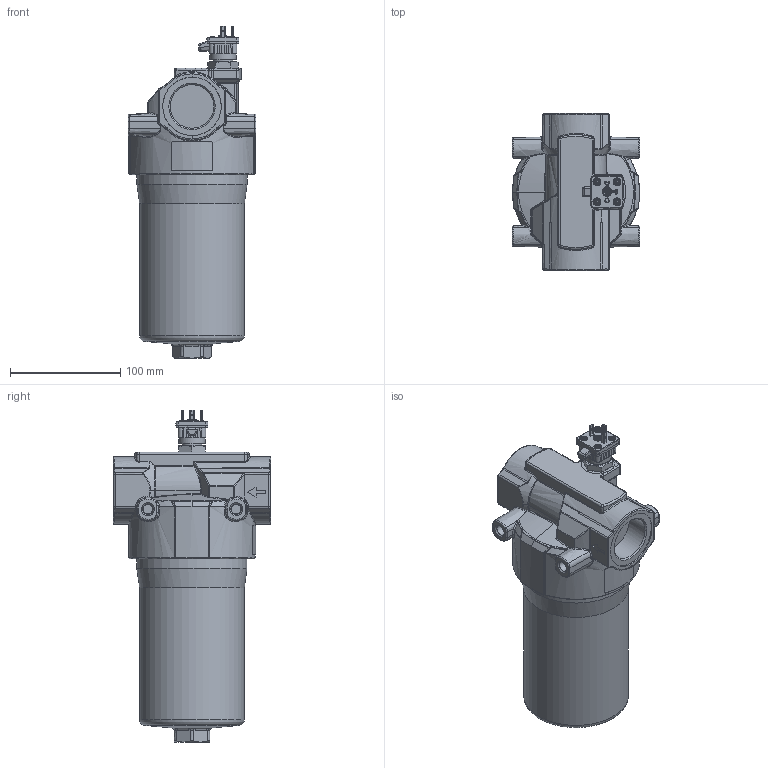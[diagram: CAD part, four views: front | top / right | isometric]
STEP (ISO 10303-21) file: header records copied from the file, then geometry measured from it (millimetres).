
FILE_DESCRIPTION((''),'2;1');
FILE_NAME('U:\Users\i.maeder\34377500_D162-258ED8.stp', '2016-10-25T08:07:55',('User'),('SDRC'),'I-DEAS Master Series 9','UNIX', 'Yes');
FILE_SCHEMA(('AUTOMOTIVE_DESIGN { 1 0 10303 214 1 1 1 1 }'));
Length unit declared in the file: millimetre
Products named in the file (1): 34377500
Bounding box: 116 x 143 x 300.9 mm (x, y, z)
Volume: 2008928.5 mm3; surface area: 120782 mm2
Topology: 1 solids, 3 shells, 1356 faces, 3573 edges, 2227 vertices
Faces by surface type: bspline 1356
Entity records: 56013 total; most frequent: CARTESIAN_POINT 35805, ORIENTED_EDGE 7070, EDGE_CURVE 3535, VERTEX_POINT 2220, B_SPLINE_CURVE_WITH_KNOTS 2177, EDGE_LOOP 1397, FACE_OUTER_BOUND 1356, ADVANCED_FACE 1356
